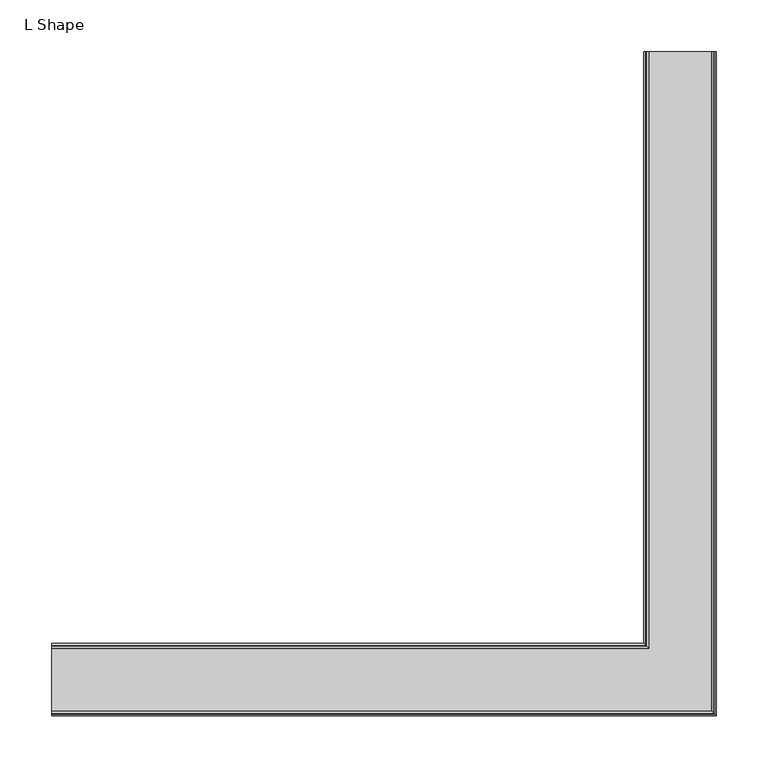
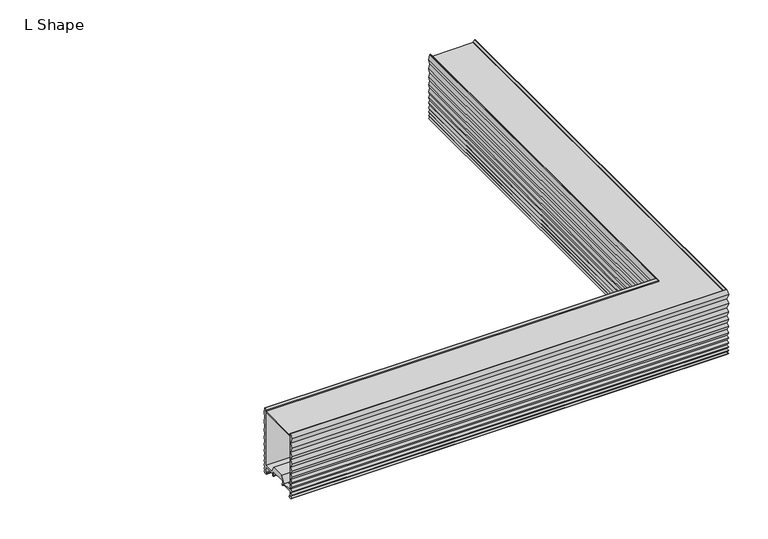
"""IFC4 building model written with IfcOpenShell, lengths in millimetres: light fixture geometry, Lighting-Pendant-Betacalco-Bellows-L_Shape : L Shape."""

from ifc_helpers import new_model, si_unit, frame, origin, place, context, project, spatial, polyline, circle_curve, ellipse_curve, outline, extrude, source, transform, mapped, element, save
from ifc_brep_helpers import plane_surface, cylinder_surface, advanced_brep


def l_shape_f6189a61(model_context):
    return source(origin(), model_context, "Body", "SolidModel", [
        advanced_brep(
        [(273.578, 609.6, 620.268), (273.578, 609.6, 611.759), (276.1074155, 609.6, 611.759), (274.1622, 609.6, 609.6), (271.5112057, 609.6, 609.6), (269.6378379, 609.6, 611.6283861), (271.419, 609.6, 613.664), (269.641, 609.6, 616.204), (271.419, 609.6, 618.744), (269.641, 609.6, 621.792), (271.419, 609.6, 624.84), (269.641, 609.6, 628.396), (271.419, 609.6, 631.952), (269.641, 609.6, 635.762), (271.419, 609.6, 639.572), (269.6696413, 609.6, 644.0703509), (271.3917998, 609.6, 648.6460566), (269.6644945, 609.6, 653.7288728), (271.3965785, 609.6, 658.8119386), (269.6606035, 609.6, 664.402389), (271.4002163, 609.6, 669.9929656), (269.6575947, 609.6, 676.091104), (271.4035969, 609.6, 682.1911894), (269.6533208, 609.6, 689.3067168), (271.4068918, 609.6, 696.4195673), (269.6525087, 609.6, 703.786321), (271.4185068, 609.6, 711.2), (272.2122568, 609.6, 711.2), (274.37175, 609.6, 708.8470342), (274.37175, 609.6, 707.3961196), (273.578, 609.6, 707.3961196), (273.578, 609.6, 622.427), (289.3193854, 609.6, 622.427), (294.1777745, 609.6, 632.1473325), (315.4222255, 609.6, 632.1473325), (320.2806146, 609.6, 622.427), (336.022, 609.6, 622.427), (336.022, 609.6, 707.3961196), (335.22825, 609.6, 707.3961196), (335.22825, 609.6, 708.8470342), (337.3877432, 609.6, 711.2), (338.1814932, 609.6, 711.2), (339.9474913, 609.6, 703.786321), (338.1931082, 609.6, 696.4195673), (339.9466792, 609.6, 689.3067168), (338.1964031, 609.6, 682.1911894), (339.9424053, 609.6, 676.091104), (338.1997837, 609.6, 669.9929656), (339.9393965, 609.6, 664.402389), (338.2034215, 609.6, 658.8119386), (339.9355055, 609.6, 653.7288728), (338.2082002, 609.6, 648.6460566), (339.9303587, 609.6, 644.0703509), (338.181, 609.6, 639.572), (339.959, 609.6, 635.762), (338.181, 609.6, 631.952), (339.959, 609.6, 628.396), (338.181, 609.6, 624.84), (339.959, 609.6, 621.792), (338.181, 609.6, 618.744), (339.959, 609.6, 616.204), (338.181, 609.6, 613.664), (339.9621621, 609.6, 611.6283861), (338.0887943, 609.6, 609.6), (335.4378, 609.6, 609.6), (333.4925845, 609.6, 611.759), (336.022, 609.6, 611.759), (336.022, 609.6, 620.268), (318.3129289, 609.6, 620.268), (317.5429679, 609.6, 618.214822), (315.8552644, 609.6, 618.8406239), (317.48601, 609.6, 623.1891701), (316.8641563, 609.6, 624.4333325), (292.7358437, 609.6, 624.4333325), (292.11399, 609.6, 623.1891701), (293.7447356, 609.6, 618.8406239), (292.0570321, 609.6, 618.214822), (291.2870711, 609.6, 620.268), (-304.8, 31.222, 620.268), (-304.8, 13.5129289, 620.268), (-304.8, 12.7429679, 618.214822), (-304.8, 11.0552644, 618.8406239), (-304.8, 12.68601, 623.1891701), (-304.8, 12.0641563, 624.4333325), (-304.8, -12.0641563, 624.4333325), (-304.8, -12.68601, 623.1891701), (-304.8, -11.0552644, 618.8406239), (-304.8, -12.7429679, 618.214822), (-304.8, -13.5129289, 620.268), (-304.8, -31.222, 620.268), (-304.8, -31.222, 611.759), (-304.8, -28.6925845, 611.759), (-304.8, -30.6378, 609.6), (-304.8, -33.2887943, 609.6), (-304.8, -35.1621621, 611.6283861), (-304.8, -33.381, 613.664), (-304.8, -35.159, 616.204), (-304.8, -33.381, 618.744), (-304.8, -35.159, 621.792), (-304.8, -33.381, 624.84), (-304.8, -35.159, 628.396), (-304.8, -33.381, 631.952), (-304.8, -35.159, 635.762), (-304.8, -33.381, 639.572), (-304.8, -35.1303587, 644.0703509), (-304.8, -33.4082002, 648.6460566), (-304.8, -35.1355055, 653.7288728), (-304.8, -33.4034215, 658.8119386), (-304.8, -35.1393965, 664.402389), (-304.8, -33.3997837, 669.9929656), (-304.8, -35.1424053, 676.091104), (-304.8, -33.3964031, 682.1911894), (-304.8, -35.1466792, 689.3067168), (-304.8, -33.3931082, 696.4195673), (-304.8, -35.1474913, 703.786321), (-304.8, -33.3814932, 711.2), (-304.8, -32.5877432, 711.2), (-304.8, -30.42825, 708.8470342), (-304.8, -30.42825, 707.3961196), (-304.8, -31.222, 707.3961196), (-304.8, -31.222, 622.427), (-304.8, -15.4806146, 622.427), (-304.8, -10.6222255, 632.1473325), (-304.8, 10.6222255, 632.1473325), (-304.8, 15.4806146, 622.427), (-304.8, 31.222, 622.427), (-304.8, 31.222, 707.3961196), (-304.8, 30.42825, 707.3961196), (-304.8, 30.42825, 708.8470342), (-304.8, 32.5877432, 711.2), (-304.8, 33.3814932, 711.2), (-304.8, 35.1474913, 703.786321), (-304.8, 33.3931082, 696.4195673), (-304.8, 35.1466792, 689.3067168), (-304.8, 33.3964031, 682.1911894), (-304.8, 35.1424053, 676.091104), (-304.8, 33.3997837, 669.9929656), (-304.8, 35.1393965, 664.402389), (-304.8, 33.4034215, 658.8119386), (-304.8, 35.1355055, 653.7288728), (-304.8, 33.4082002, 648.6460566), (-304.8, 35.1303587, 644.0703509), (-304.8, 33.381, 639.572), (-304.8, 35.159, 635.762), (-304.8, 33.381, 631.952), (-304.8, 35.159, 628.396), (-304.8, 33.381, 624.84), (-304.8, 35.159, 621.792), (-304.8, 33.381, 618.744), (-304.8, 35.159, 616.204), (-304.8, 33.381, 613.664), (-304.8, 35.1621621, 611.6283861), (-304.8, 33.2887943, 609.6), (-304.8, 30.6378, 609.6), (-304.8, 28.6925845, 611.759), (-304.8, 31.222, 611.759), (292.0570321, 12.7429679, 618.214822), (291.2870711, 13.5129289, 620.268), (293.7447356, 11.0552644, 618.8406239), (292.11399, 12.68601, 623.1891701), (292.7358437, 12.0641563, 624.4333325), (317.48601, -12.68601, 623.1891701), (316.8641563, -12.0641563, 624.4333325), (315.8552644, -11.0552644, 618.8406239), (317.5429679, -12.7429679, 618.214822), (318.3129289, -13.5129289, 620.268), (336.022, -31.222, 611.759), (336.022, -31.222, 620.268), (335.4378, -30.6378, 609.6), (333.4925845, -28.6925845, 611.759), (339.9621621, -35.1621621, 611.6283861), (338.0887943, -33.2887943, 609.6), (338.181, -33.381, 613.664), (339.959, -35.159, 616.204), (338.181, -33.381, 618.744), (339.959, -35.159, 621.792), (338.181, -33.381, 624.84), (339.959, -35.159, 628.396), (338.181, -33.381, 631.952), (339.959, -35.159, 635.762), (338.181, -33.381, 639.572), (339.9303587, -35.1303587, 644.0703509), (338.2082002, -33.4082002, 648.6460566), (339.9355055, -35.1355055, 653.7288728), (338.2034215, -33.4034215, 658.8119386), (339.9393965, -35.1393965, 664.402389), (338.1997837, -33.3997837, 669.9929656), (339.9424053, -35.1424053, 676.091104), (338.1964031, -33.3964031, 682.1911894), (339.9466792, -35.1466792, 689.3067168), (338.1931082, -33.3931082, 696.4195673), (339.9474913, -35.1474913, 703.786321), (338.1814932, -33.3814932, 711.2), (335.22825, -30.42825, 708.8470342), (337.3877432, -32.5877432, 711.2), (335.22825, -30.42825, 707.3961196), (336.022, -31.222, 622.427), (336.022, -31.222, 707.3961196), (315.4222255, -10.6222255, 632.1473325), (320.2806146, -15.4806146, 622.427), (289.3193854, 15.4806146, 622.427), (294.1777745, 10.6222255, 632.1473325), (273.578, 31.222, 707.3961196), (273.578, 31.222, 622.427), (274.37175, 30.42825, 708.8470342), (274.37175, 30.42825, 707.3961196), (272.2122568, 32.5877432, 711.2), (269.6525087, 35.1474913, 703.786321), (271.4185068, 33.3814932, 711.2), (271.4068918, 33.3931082, 696.4195673), (269.6533208, 35.1466792, 689.3067168), (271.4035969, 33.3964031, 682.1911894), (269.6575947, 35.1424053, 676.091104), (271.4002163, 33.3997837, 669.9929656), (269.6606035, 35.1393965, 664.402389), (271.3965785, 33.4034215, 658.8119386), (269.6644945, 35.1355055, 653.7288728), (271.3917998, 33.4082002, 648.6460566), (269.6696413, 35.1303587, 644.0703509), (271.419, 33.381, 639.572), (269.641, 35.159, 635.762), (271.419, 33.381, 631.952), (269.641, 35.159, 628.396), (271.419, 33.381, 624.84), (269.641, 35.159, 621.792), (271.419, 33.381, 618.744), (269.641, 35.159, 616.204), (271.419, 33.381, 613.664), (269.6378379, 35.1621621, 611.6283861), (271.5112057, 33.2887943, 609.6), (276.1074155, 28.6925845, 611.759), (274.1622, 30.6378, 609.6), (273.578, 31.222, 620.268), (273.578, 31.222, 611.759)],
        [
            (0, 1),
            (1, 2),
            (2, 3, circle_curve(frame((274.1622, 609.6, 611.5558), z_axis=(0.0, 1.0, 0.0), x_axis=(0.0, 0.0, -1.0)), 1.9558)),
            (3, 4),
            (4, 5),
            (5, 6),
            (6, 7),
            (7, 8),
            (8, 9),
            (9, 10),
            (10, 11),
            (11, 12),
            (12, 13),
            (13, 14),
            (14, 15),
            (15, 16),
            (16, 17),
            (17, 18),
            (18, 19),
            (19, 20),
            (20, 21),
            (21, 22),
            (22, 23),
            (23, 24),
            (24, 25),
            (25, 26),
            (26, 27),
            (27, 28),
            (28, 29),
            (29, 30),
            (30, 31),
            (31, 32),
            (32, 33),
            (33, 34),
            (34, 35),
            (35, 36),
            (36, 37),
            (37, 38),
            (38, 39),
            (39, 40),
            (40, 41),
            (41, 42),
            (42, 43),
            (43, 44),
            (44, 45),
            (45, 46),
            (46, 47),
            (47, 48),
            (48, 49),
            (49, 50),
            (50, 51),
            (51, 52),
            (52, 53),
            (53, 54),
            (54, 55),
            (55, 56),
            (56, 57),
            (57, 58),
            (58, 59),
            (59, 60),
            (60, 61),
            (61, 62),
            (62, 63),
            (63, 64),
            (64, 65, circle_curve(frame((335.4378, 609.6, 611.5558), z_axis=(0.0, 1.0, 0.0), x_axis=(0.0, 0.0, -1.0)), 1.9558)),
            (65, 66),
            (66, 67),
            (67, 68),
            (68, 69),
            (69, 70, circle_curve(frame((316.7002723, 609.6, 618.5308408), z_axis=(0.0, 1.0, 0.0), x_axis=(-0.34325550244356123, 0.0, -0.9392420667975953)), 0.9000021)),
            (70, 71),
            (71, 72),
            (72, 73),
            (73, 74),
            (74, 75),
            (75, 76, circle_curve(frame((292.8997277, 609.6, 618.5308408), z_axis=(0.0, 1.0, 0.0), x_axis=(0.34325550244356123, 0.0, -0.9392420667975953)), 0.9000021)),
            (76, 77),
            (77, 0),
            (78, 79),
            (79, 80),
            (80, 81, circle_curve(frame((-304.8, 11.9002723, 618.5308408), z_axis=(-1.0, 0.0, 0.0), x_axis=(0.0, -0.34325550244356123, -0.9392420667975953)), 0.9000021)),
            (81, 82),
            (82, 83),
            (83, 84),
            (84, 85),
            (85, 86),
            (86, 87, circle_curve(frame((-304.8, -11.9002723, 618.5308408), z_axis=(-1.0, 0.0, 0.0), x_axis=(0.0, 0.34325550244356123, -0.9392420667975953)), 0.9000021)),
            (87, 88),
            (88, 89),
            (89, 90),
            (90, 91),
            (91, 92, circle_curve(frame((-304.8, -30.6378, 611.5558), z_axis=(-1.0, 0.0, 0.0), x_axis=(0.0, 0.0, -1.0)), 1.9558)),
            (92, 93),
            (93, 94),
            (94, 95),
            (95, 96),
            (96, 97),
            (97, 98),
            (98, 99),
            (99, 100),
            (100, 101),
            (101, 102),
            (102, 103),
            (103, 104),
            (104, 105),
            (105, 106),
            (106, 107),
            (107, 108),
            (108, 109),
            (109, 110),
            (110, 111),
            (111, 112),
            (112, 113),
            (113, 114),
            (114, 115),
            (115, 116),
            (116, 117),
            (117, 118),
            (118, 119),
            (119, 120),
            (120, 121),
            (121, 122),
            (122, 123),
            (123, 124),
            (124, 125),
            (125, 126),
            (126, 127),
            (127, 128),
            (128, 129),
            (129, 130),
            (130, 131),
            (131, 132),
            (132, 133),
            (133, 134),
            (134, 135),
            (135, 136),
            (136, 137),
            (137, 138),
            (138, 139),
            (139, 140),
            (140, 141),
            (141, 142),
            (142, 143),
            (143, 144),
            (144, 145),
            (145, 146),
            (146, 147),
            (147, 148),
            (148, 149),
            (149, 150),
            (150, 151),
            (151, 152),
            (152, 153),
            (153, 154, circle_curve(frame((-304.8, 30.6378, 611.5558), z_axis=(-1.0, 0.0, 0.0), x_axis=(0.0, 0.0, -1.0)), 1.9558)),
            (154, 155),
            (155, 78),
            (156, 80),
            (79, 157),
            (157, 156),
            (158, 81),
            (156, 158, ellipse_curve(frame((292.8997277, 11.9002723, 618.5308408), z_axis=(-0.7071067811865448, -0.7071067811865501, 0.0), x_axis=(0.7071067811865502, -0.7071067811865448, 0.0)), 1.2727952, 0.9000021)),
            (159, 82),
            (158, 159),
            (160, 83),
            (159, 160),
            (161, 85),
            (84, 162),
            (162, 161),
            (163, 86),
            (161, 163),
            (164, 87),
            (163, 164, ellipse_curve(frame((316.7002723, -11.9002723, 618.5308408), z_axis=(-0.7071067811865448, -0.7071067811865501, 0.0), x_axis=(0.7071067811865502, -0.7071067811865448, 0.0)), 1.2727952, 0.9000021)),
            (165, 88),
            (164, 165),
            (166, 90),
            (89, 167),
            (167, 166),
            (168, 92),
            (91, 169),
            (169, 168, ellipse_curve(frame((335.4378, -30.6378, 611.5558), z_axis=(-0.7071067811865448, -0.7071067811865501, 0.0), x_axis=(0.7071067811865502, -0.7071067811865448, 0.0)), 2.7659189, 1.9558)),
            (170, 94),
            (93, 171),
            (171, 170),
            (172, 95),
            (170, 172),
            (173, 96),
            (172, 173),
            (174, 97),
            (173, 174),
            (175, 98),
            (174, 175),
            (176, 99),
            (175, 176),
            (177, 100),
            (176, 177),
            (178, 101),
            (177, 178),
            (179, 102),
            (178, 179),
            (180, 103),
            (179, 180),
            (181, 104),
            (180, 181),
            (182, 105),
            (181, 182),
            (183, 106),
            (182, 183),
            (184, 107),
            (183, 184),
            (185, 108),
            (184, 185),
            (186, 109),
            (185, 186),
            (187, 110),
            (186, 187),
            (188, 111),
            (187, 188),
            (189, 112),
            (188, 189),
            (190, 113),
            (189, 190),
            (191, 114),
            (190, 191),
            (192, 115),
            (191, 192),
            (193, 117),
            (116, 194),
            (194, 193),
            (195, 118),
            (193, 195),
            (196, 120),
            (119, 197),
            (197, 196),
            (198, 122),
            (121, 199),
            (199, 198),
            (200, 124),
            (123, 201),
            (201, 200),
            (202, 126),
            (125, 203),
            (203, 202),
            (204, 128),
            (127, 205),
            (205, 204),
            (206, 129),
            (204, 206),
            (207, 131),
            (130, 208),
            (208, 207),
            (209, 132),
            (207, 209),
            (210, 133),
            (209, 210),
            (211, 134),
            (210, 211),
            (212, 135),
            (211, 212),
            (213, 136),
            (212, 213),
            (214, 137),
            (213, 214),
            (215, 138),
            (214, 215),
            (216, 139),
            (215, 216),
            (217, 140),
            (216, 217),
            (218, 141),
            (217, 218),
            (219, 142),
            (218, 219),
            (220, 143),
            (219, 220),
            (221, 144),
            (220, 221),
            (222, 145),
            (221, 222),
            (223, 146),
            (222, 223),
            (224, 147),
            (223, 224),
            (225, 148),
            (224, 225),
            (226, 149),
            (225, 226),
            (227, 150),
            (226, 227),
            (228, 151),
            (227, 228),
            (229, 152),
            (228, 229),
            (230, 154),
            (153, 231),
            (231, 230, ellipse_curve(frame((274.1622, 30.6378, 611.5558), z_axis=(-0.7071067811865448, -0.7071067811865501, 0.0), x_axis=(0.7071067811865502, -0.7071067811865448, 0.0)), 2.7659189, 1.9558)),
            (232, 78),
            (155, 233),
            (233, 232),
            (77, 157),
            (232, 0),
            (76, 156),
            (75, 158),
            (74, 159),
            (73, 160),
            (72, 162),
            (71, 161),
            (70, 163),
            (69, 164),
            (68, 165),
            (67, 167),
            (66, 166),
            (65, 169),
            (64, 168),
            (63, 171),
            (62, 170),
            (61, 172),
            (60, 173),
            (59, 174),
            (58, 175),
            (57, 176),
            (56, 177),
            (55, 178),
            (54, 179),
            (53, 180),
            (52, 181),
            (51, 182),
            (50, 183),
            (49, 184),
            (48, 185),
            (47, 186),
            (46, 187),
            (45, 188),
            (44, 189),
            (43, 190),
            (42, 191),
            (41, 192),
            (40, 194),
            (39, 193),
            (38, 195),
            (37, 197),
            (36, 196),
            (35, 199),
            (34, 198),
            (33, 201),
            (32, 200),
            (31, 203),
            (30, 202),
            (29, 205),
            (28, 204),
            (27, 206),
            (26, 208),
            (25, 207),
            (24, 209),
            (23, 210),
            (22, 211),
            (21, 212),
            (20, 213),
            (19, 214),
            (18, 215),
            (17, 216),
            (16, 217),
            (15, 218),
            (14, 219),
            (13, 220),
            (12, 221),
            (11, 222),
            (10, 223),
            (9, 224),
            (8, 225),
            (7, 226),
            (6, 227),
            (5, 228),
            (4, 229),
            (3, 231),
            (2, 230),
            (1, 233),
        ],
        [
            plane_surface(frame((304.8, 609.6, 0.0), z_axis=(0.0, 1.0, 0.0), x_axis=(0.0, 0.0, 1.0))),
            plane_surface(frame((-304.8, 0.0, 0.0), z_axis=(-1.0, 0.0, 0.0), x_axis=(0.0, 0.0, 1.0))),
            plane_surface(frame((291.2870711, 13.5129289, 620.268), z_axis=(0.0, 0.9363262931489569, -0.3511311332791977), x_axis=(-1.0, 0.0, 0.0))),
            cylinder_surface(frame((304.8, 11.9002723, 618.5308408), z_axis=(1.0, 0.0, 0.0), x_axis=(0.0, -0.34325550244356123, -0.9392420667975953)), 0.9000021),
            plane_surface(frame((293.7447356, 11.0552644, 618.8406239), z_axis=(0.0, -0.9363262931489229, 0.35113113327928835), x_axis=(-1.0, 0.0, 0.0))),
            plane_surface(frame((292.11399, 12.68601, 623.1891701), z_axis=(0.0, -0.89449260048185, -0.44708275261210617), x_axis=(-1.0, 0.0, 0.0))),
            plane_surface(frame((316.8641563, -12.0641563, 624.4333325), z_axis=(0.0, 0.89449260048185, -0.44708275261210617), x_axis=(-1.0, 0.0, 0.0))),
            plane_surface(frame((317.48601, -12.68601, 623.1891701), z_axis=(0.0, 0.9363262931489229, 0.35113113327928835), x_axis=(-1.0, 0.0, 0.0))),
            cylinder_surface(frame((304.8, -11.9002723, 618.5308408), z_axis=(1.0, 0.0, 0.0), x_axis=(0.0, 0.34325550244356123, -0.9392420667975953)), 0.9000021),
            plane_surface(frame((317.5429679, -12.7429679, 618.214822), z_axis=(0.0, -0.9363262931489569, -0.3511311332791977), x_axis=(-1.0, 0.0, 0.0))),
            plane_surface(frame((336.022, -31.222, 620.268), z_axis=(0.0, 1.0, 0.0), x_axis=(-1.0, 0.0, 0.0))),
            cylinder_surface(frame((304.8, -30.6378, 611.5558), z_axis=(1.0, 0.0, 0.0), x_axis=(0.0, 0.0, -1.0)), 1.9558),
            plane_surface(frame((338.0887943, -33.2887943, 609.6), z_axis=(0.0, -0.7346208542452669, -0.6784778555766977), x_axis=(-1.0, 0.0, 0.0))),
            plane_surface(frame((339.9621621, -35.1621621, 611.6283861), z_axis=(0.0, -0.75257669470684, 0.6585046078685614), x_axis=(-1.0, 0.0, 0.0))),
            plane_surface(frame((338.181, -33.381, 613.664), z_axis=(0.0, -0.8192319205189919, -0.5734623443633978), x_axis=(-1.0, 0.0, 0.0))),
            plane_surface(frame((339.959, -35.159, 616.204), z_axis=(0.0, -0.8192319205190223, 0.5734623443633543), x_axis=(-1.0, 0.0, 0.0))),
            plane_surface(frame((338.181, -33.381, 618.744), z_axis=(0.0, -0.8637789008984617, -0.503871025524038), x_axis=(-1.0, 0.0, 0.0))),
            plane_surface(frame((339.959, -35.159, 621.792), z_axis=(0.0, -0.8637789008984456, 0.5038710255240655), x_axis=(-1.0, 0.0, 0.0))),
            plane_surface(frame((338.181, -33.381, 624.84), z_axis=(0.0, -0.8944271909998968, -0.4472135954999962), x_axis=(-1.0, 0.0, 0.0))),
            plane_surface(frame((339.959, -35.159, 628.396), z_axis=(0.0, -0.8944271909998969, 0.44721359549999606), x_axis=(-1.0, 0.0, 0.0))),
            plane_surface(frame((338.181, -33.381, 631.952), z_axis=(0.0, -0.9061831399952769, -0.4228854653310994), x_axis=(-1.0, 0.0, 0.0))),
            plane_surface(frame((339.959, -35.159, 635.762), z_axis=(0.0, -0.9061831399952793, 0.4228854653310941), x_axis=(-1.0, 0.0, 0.0))),
            plane_surface(frame((338.181, -33.381, 639.572), z_axis=(0.0, -0.9320046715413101, -0.362446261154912), x_axis=(-1.0, 0.0, 0.0))),
            plane_surface(frame((339.9303587, -35.1303587, 644.0703509), z_axis=(0.0, -0.9359069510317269, 0.35224732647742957), x_axis=(-1.0, 0.0, 0.0))),
            plane_surface(frame((338.2082002, -33.4082002, 648.6460566), z_axis=(0.0, -0.9468211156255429, -0.3217604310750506), x_axis=(-1.0, 0.0, 0.0))),
            plane_surface(frame((339.9355055, -35.1355055, 653.7288728), z_axis=(0.0, -0.9465545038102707, 0.3225439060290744), x_axis=(-1.0, 0.0, 0.0))),
            plane_surface(frame((338.2034215, -33.4034215, 658.8119386), z_axis=(0.0, -0.9550153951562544, -0.2965562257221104), x_axis=(-1.0, 0.0, 0.0))),
            plane_surface(frame((339.9393965, -35.1393965, 664.402389), z_axis=(0.0, -0.9548411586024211, 0.29711674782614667), x_axis=(-1.0, 0.0, 0.0))),
            plane_surface(frame((338.1997837, -33.3997837, 669.9929656), z_axis=(0.0, -0.9615116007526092, -0.2747643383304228), x_axis=(-1.0, 0.0, 0.0))),
            plane_surface(frame((339.9424053, -35.1424053, 676.091104), z_axis=(0.0, -0.9613939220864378, 0.27517581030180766), x_axis=(-1.0, 0.0, 0.0))),
            plane_surface(frame((338.1964031, -33.3964031, 682.1911894), z_axis=(0.0, -0.971054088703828, -0.23885970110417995), x_axis=(-1.0, 0.0, 0.0))),
            plane_surface(frame((339.9466792, -35.1466792, 689.3067168), z_axis=(0.0, -0.9709287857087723, 0.23936852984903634), x_axis=(-1.0, 0.0, 0.0))),
            plane_surface(frame((338.1931082, -33.3931082, 696.4195673), z_axis=(0.0, -0.9727944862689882, -0.23166978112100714), x_axis=(-1.0, 0.0, 0.0))),
            plane_surface(frame((339.9474913, -35.1474913, 703.786321), z_axis=(0.0, -0.9727814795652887, 0.23172439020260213), x_axis=(-1.0, 0.0, 0.0))),
            plane_surface(frame((337.3877432, -32.5877432, 711.2), z_axis=(0.0, 0.7367472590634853, 0.6761682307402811), x_axis=(-1.0, 0.0, 0.0))),
            plane_surface(frame((335.22825, -30.42825, 708.8470342), z_axis=(0.0, 1.0, 0.0), x_axis=(-1.0, 0.0, 0.0))),
            plane_surface(frame((336.022, -31.222, 707.3961196), z_axis=(0.0, 1.0, 0.0), x_axis=(-1.0, 0.0, 0.0))),
            plane_surface(frame((320.2806146, -15.4806146, 622.427), z_axis=(0.0, -0.8944926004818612, 0.4470827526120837), x_axis=(-1.0, 0.0, 0.0))),
            plane_surface(frame((294.1777745, 10.6222255, 632.1473325), z_axis=(0.0, 0.8944926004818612, 0.4470827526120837), x_axis=(-1.0, 0.0, 0.0))),
            plane_surface(frame((273.578, 31.222, 622.427), z_axis=(0.0, -1.0, 0.0), x_axis=(-1.0, 0.0, 0.0))),
            plane_surface(frame((274.37175, 30.42825, 707.3961196), z_axis=(0.0, -1.0, 0.0), x_axis=(-1.0, 0.0, 0.0))),
            plane_surface(frame((274.37175, 30.42825, 708.8470342), z_axis=(0.0, -0.7367472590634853, 0.6761682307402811), x_axis=(-1.0, 0.0, 0.0))),
            plane_surface(frame((271.4185068, 33.3814932, 711.2), z_axis=(0.0, 0.9727814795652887, 0.23172439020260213), x_axis=(-1.0, 0.0, 0.0))),
            plane_surface(frame((269.6525087, 35.1474913, 703.786321), z_axis=(0.0, 0.9727944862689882, -0.23166978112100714), x_axis=(-1.0, 0.0, 0.0))),
            plane_surface(frame((271.4068918, 33.3931082, 696.4195673), z_axis=(0.0, 0.9709287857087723, 0.23936852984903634), x_axis=(-1.0, 0.0, 0.0))),
            plane_surface(frame((269.6533208, 35.1466792, 689.3067168), z_axis=(0.0, 0.971054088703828, -0.23885970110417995), x_axis=(-1.0, 0.0, 0.0))),
            plane_surface(frame((271.4035969, 33.3964031, 682.1911894), z_axis=(0.0, 0.9613939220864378, 0.27517581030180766), x_axis=(-1.0, 0.0, 0.0))),
            plane_surface(frame((269.6575947, 35.1424053, 676.091104), z_axis=(0.0, 0.9615116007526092, -0.2747643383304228), x_axis=(-1.0, 0.0, 0.0))),
            plane_surface(frame((271.4002163, 33.3997837, 669.9929656), z_axis=(0.0, 0.9548411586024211, 0.29711674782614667), x_axis=(-1.0, 0.0, 0.0))),
            plane_surface(frame((269.6606035, 35.1393965, 664.402389), z_axis=(0.0, 0.9550153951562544, -0.2965562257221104), x_axis=(-1.0, 0.0, 0.0))),
            plane_surface(frame((271.3965785, 33.4034215, 658.8119386), z_axis=(0.0, 0.9465545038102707, 0.3225439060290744), x_axis=(-1.0, 0.0, 0.0))),
            plane_surface(frame((269.6644945, 35.1355055, 653.7288728), z_axis=(0.0, 0.9468211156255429, -0.3217604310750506), x_axis=(-1.0, 0.0, 0.0))),
            plane_surface(frame((271.3917998, 33.4082002, 648.6460566), z_axis=(0.0, 0.9359069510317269, 0.35224732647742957), x_axis=(-1.0, 0.0, 0.0))),
            plane_surface(frame((269.6696413, 35.1303587, 644.0703509), z_axis=(0.0, 0.9320046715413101, -0.362446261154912), x_axis=(-1.0, 0.0, 0.0))),
            plane_surface(frame((271.419, 33.381, 639.572), z_axis=(0.0, 0.9061831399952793, 0.4228854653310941), x_axis=(-1.0, 0.0, 0.0))),
            plane_surface(frame((269.641, 35.159, 635.762), z_axis=(0.0, 0.9061831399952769, -0.4228854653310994), x_axis=(-1.0, 0.0, 0.0))),
            plane_surface(frame((271.419, 33.381, 631.952), z_axis=(0.0, 0.8944271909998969, 0.44721359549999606), x_axis=(-1.0, 0.0, 0.0))),
            plane_surface(frame((269.641, 35.159, 628.396), z_axis=(0.0, 0.8944271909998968, -0.4472135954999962), x_axis=(-1.0, 0.0, 0.0))),
            plane_surface(frame((271.419, 33.381, 624.84), z_axis=(0.0, 0.8637789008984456, 0.5038710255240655), x_axis=(-1.0, 0.0, 0.0))),
            plane_surface(frame((269.641, 35.159, 621.792), z_axis=(0.0, 0.8637789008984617, -0.503871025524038), x_axis=(-1.0, 0.0, 0.0))),
            plane_surface(frame((271.419, 33.381, 618.744), z_axis=(0.0, 0.8192319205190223, 0.5734623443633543), x_axis=(-1.0, 0.0, 0.0))),
            plane_surface(frame((269.641, 35.159, 616.204), z_axis=(0.0, 0.8192319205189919, -0.5734623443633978), x_axis=(-1.0, 0.0, 0.0))),
            plane_surface(frame((271.419, 33.381, 613.664), z_axis=(0.0, 0.75257669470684, 0.6585046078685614), x_axis=(-1.0, 0.0, 0.0))),
            plane_surface(frame((269.6378379, 35.1621621, 611.6283861), z_axis=(0.0, 0.7346208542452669, -0.6784778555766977), x_axis=(-1.0, 0.0, 0.0))),
            cylinder_surface(frame((304.8, 30.6378, 611.5558), z_axis=(1.0, 0.0, 0.0), x_axis=(0.0, 0.0, -1.0)), 1.9558),
            plane_surface(frame((273.578, 31.222, 611.759), z_axis=(0.0, -1.0, 0.0), x_axis=(-1.0, 0.0, 0.0))),
            plane_surface(frame((273.578, 609.6, 620.268), z_axis=(0.0, 0.0, -1.0), x_axis=(0.0, -1.0, 0.0))),
            plane_surface(frame((291.2870711, 609.6, 620.268), z_axis=(-0.9363262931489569, 0.0, -0.3511311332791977), x_axis=(0.0, -1.0, 0.0))),
            cylinder_surface(frame((292.8997277, 609.6, 618.5308408), z_axis=(0.0, 1.0, 0.0), x_axis=(0.34325550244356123, 0.0, -0.9392420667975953)), 0.9000021),
            plane_surface(frame((293.7447356, 609.6, 618.8406239), z_axis=(0.9363262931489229, 0.0, 0.35113113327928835), x_axis=(0.0, -1.0, 0.0))),
            plane_surface(frame((292.11399, 609.6, 623.1891701), z_axis=(0.89449260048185, 0.0, -0.44708275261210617), x_axis=(0.0, -1.0, 0.0))),
            plane_surface(frame((292.7358437, 609.6, 624.4333325), z_axis=(0.0, 0.0, -1.0), x_axis=(0.0, -1.0, 0.0))),
            plane_surface(frame((316.8641563, 609.6, 624.4333325), z_axis=(-0.89449260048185, 0.0, -0.44708275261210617), x_axis=(0.0, -1.0, 0.0))),
            plane_surface(frame((317.48601, 609.6, 623.1891701), z_axis=(-0.9363262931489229, 0.0, 0.35113113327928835), x_axis=(0.0, -1.0, 0.0))),
            cylinder_surface(frame((316.7002723, 609.6, 618.5308408), z_axis=(0.0, 1.0, 0.0), x_axis=(-0.34325550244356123, 0.0, -0.9392420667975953)), 0.9000021),
            plane_surface(frame((317.5429679, 609.6, 618.214822), z_axis=(0.9363262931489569, 0.0, -0.3511311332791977), x_axis=(0.0, -1.0, 0.0))),
            plane_surface(frame((318.3129289, 609.6, 620.268), z_axis=(0.0, 0.0, -1.0), x_axis=(0.0, -1.0, 0.0))),
            plane_surface(frame((336.022, 609.6, 620.268), z_axis=(-1.0, 0.0, 0.0), x_axis=(0.0, -1.0, 0.0))),
            plane_surface(frame((336.022, 609.6, 611.759), z_axis=(0.0, 0.0, 1.0), x_axis=(0.0, -1.0, 0.0))),
            cylinder_surface(frame((335.4378, 609.6, 611.5558), z_axis=(0.0, 1.0, 0.0), x_axis=(0.0, 0.0, -1.0)), 1.9558),
            plane_surface(frame((335.4378, 609.6, 609.6), z_axis=(0.0, 0.0, -1.0), x_axis=(0.0, -1.0, 0.0))),
            plane_surface(frame((338.0887943, 609.6, 609.6), z_axis=(0.7346208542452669, 0.0, -0.6784778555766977), x_axis=(0.0, -1.0, 0.0))),
            plane_surface(frame((339.9621621, 609.6, 611.6283861), z_axis=(0.75257669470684, 0.0, 0.6585046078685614), x_axis=(0.0, -1.0, 0.0))),
            plane_surface(frame((338.181, 609.6, 613.664), z_axis=(0.8192319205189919, 0.0, -0.5734623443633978), x_axis=(0.0, -1.0, 0.0))),
            plane_surface(frame((339.959, 609.6, 616.204), z_axis=(0.8192319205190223, 0.0, 0.5734623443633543), x_axis=(0.0, -1.0, 0.0))),
            plane_surface(frame((338.181, 609.6, 618.744), z_axis=(0.8637789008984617, 0.0, -0.503871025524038), x_axis=(0.0, -1.0, 0.0))),
            plane_surface(frame((339.959, 609.6, 621.792), z_axis=(0.8637789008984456, 0.0, 0.5038710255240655), x_axis=(0.0, -1.0, 0.0))),
            plane_surface(frame((338.181, 609.6, 624.84), z_axis=(0.8944271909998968, 0.0, -0.4472135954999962), x_axis=(0.0, -1.0, 0.0))),
            plane_surface(frame((339.959, 609.6, 628.396), z_axis=(0.8944271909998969, 0.0, 0.44721359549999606), x_axis=(0.0, -1.0, 0.0))),
            plane_surface(frame((338.181, 609.6, 631.952), z_axis=(0.9061831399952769, 0.0, -0.4228854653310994), x_axis=(0.0, -1.0, 0.0))),
            plane_surface(frame((339.959, 609.6, 635.762), z_axis=(0.9061831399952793, 0.0, 0.4228854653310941), x_axis=(0.0, -1.0, 0.0))),
            plane_surface(frame((338.181, 609.6, 639.572), z_axis=(0.9320046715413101, 0.0, -0.362446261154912), x_axis=(0.0, -1.0, 0.0))),
            plane_surface(frame((339.9303587, 609.6, 644.0703509), z_axis=(0.9359069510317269, 0.0, 0.35224732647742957), x_axis=(0.0, -1.0, 0.0))),
            plane_surface(frame((338.2082002, 609.6, 648.6460566), z_axis=(0.9468211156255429, 0.0, -0.3217604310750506), x_axis=(0.0, -1.0, 0.0))),
            plane_surface(frame((339.9355055, 609.6, 653.7288728), z_axis=(0.9465545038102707, 0.0, 0.3225439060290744), x_axis=(0.0, -1.0, 0.0))),
            plane_surface(frame((338.2034215, 609.6, 658.8119386), z_axis=(0.9550153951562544, 0.0, -0.2965562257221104), x_axis=(0.0, -1.0, 0.0))),
            plane_surface(frame((339.9393965, 609.6, 664.402389), z_axis=(0.9548411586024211, 0.0, 0.29711674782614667), x_axis=(0.0, -1.0, 0.0))),
            plane_surface(frame((338.1997837, 609.6, 669.9929656), z_axis=(0.9615116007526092, 0.0, -0.2747643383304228), x_axis=(0.0, -1.0, 0.0))),
            plane_surface(frame((339.9424053, 609.6, 676.091104), z_axis=(0.9613939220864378, 0.0, 0.27517581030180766), x_axis=(0.0, -1.0, 0.0))),
            plane_surface(frame((338.1964031, 609.6, 682.1911894), z_axis=(0.971054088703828, 0.0, -0.23885970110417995), x_axis=(0.0, -1.0, 0.0))),
            plane_surface(frame((339.9466792, 609.6, 689.3067168), z_axis=(0.9709287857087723, 0.0, 0.23936852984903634), x_axis=(0.0, -1.0, 0.0))),
            plane_surface(frame((338.1931082, 609.6, 696.4195673), z_axis=(0.9727944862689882, 0.0, -0.23166978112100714), x_axis=(0.0, -1.0, 0.0))),
            plane_surface(frame((339.9474913, 609.6, 703.786321), z_axis=(0.9727814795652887, 0.0, 0.23172439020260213), x_axis=(0.0, -1.0, 0.0))),
            plane_surface(frame((338.1814932, 609.6, 711.2), z_axis=(0.0, 0.0, 1.0), x_axis=(0.0, -1.0, 0.0))),
            plane_surface(frame((337.3877432, 609.6, 711.2), z_axis=(-0.7367472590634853, 0.0, 0.6761682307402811), x_axis=(0.0, -1.0, 0.0))),
            plane_surface(frame((335.22825, 609.6, 708.8470342), z_axis=(-1.0, 0.0, 0.0), x_axis=(0.0, -1.0, 0.0))),
            plane_surface(frame((335.22825, 609.6, 707.3961196), z_axis=(0.0, 0.0, -1.0), x_axis=(0.0, -1.0, 0.0))),
            plane_surface(frame((336.022, 609.6, 707.3961196), z_axis=(-1.0, 0.0, 0.0), x_axis=(0.0, -1.0, 0.0))),
            plane_surface(frame((336.022, 609.6, 622.427), z_axis=(0.0, 0.0, 1.0), x_axis=(0.0, -1.0, 0.0))),
            plane_surface(frame((320.2806146, 609.6, 622.427), z_axis=(0.8944926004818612, 0.0, 0.4470827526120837), x_axis=(0.0, -1.0, 0.0))),
            plane_surface(frame((315.4222255, 609.6, 632.1473325), z_axis=(0.0, 0.0, 1.0), x_axis=(0.0, -1.0, 0.0))),
            plane_surface(frame((294.1777745, 609.6, 632.1473325), z_axis=(-0.8944926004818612, 0.0, 0.4470827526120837), x_axis=(0.0, -1.0, 0.0))),
            plane_surface(frame((289.3193854, 609.6, 622.427), z_axis=(0.0, 0.0, 1.0), x_axis=(0.0, -1.0, 0.0))),
            plane_surface(frame((273.578, 609.6, 622.427), z_axis=(1.0, 0.0, 0.0), x_axis=(0.0, -1.0, 0.0))),
            plane_surface(frame((273.578, 609.6, 707.3961196), z_axis=(0.0, 0.0, -1.0), x_axis=(0.0, -1.0, 0.0))),
            plane_surface(frame((274.37175, 609.6, 707.3961196), z_axis=(1.0, 0.0, 0.0), x_axis=(0.0, -1.0, 0.0))),
            plane_surface(frame((274.37175, 609.6, 708.8470342), z_axis=(0.7367472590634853, 0.0, 0.6761682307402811), x_axis=(0.0, -1.0, 0.0))),
            plane_surface(frame((272.2122568, 609.6, 711.2), z_axis=(0.0, 0.0, 1.0), x_axis=(0.0, -1.0, 0.0))),
            plane_surface(frame((271.4185068, 609.6, 711.2), z_axis=(-0.9727814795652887, 0.0, 0.23172439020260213), x_axis=(0.0, -1.0, 0.0))),
            plane_surface(frame((269.6525087, 609.6, 703.786321), z_axis=(-0.9727944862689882, 0.0, -0.23166978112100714), x_axis=(0.0, -1.0, 0.0))),
            plane_surface(frame((271.4068918, 609.6, 696.4195673), z_axis=(-0.9709287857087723, 0.0, 0.23936852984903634), x_axis=(0.0, -1.0, 0.0))),
            plane_surface(frame((269.6533208, 609.6, 689.3067168), z_axis=(-0.971054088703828, 0.0, -0.23885970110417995), x_axis=(0.0, -1.0, 0.0))),
            plane_surface(frame((271.4035969, 609.6, 682.1911894), z_axis=(-0.9613939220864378, 0.0, 0.27517581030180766), x_axis=(0.0, -1.0, 0.0))),
            plane_surface(frame((269.6575947, 609.6, 676.091104), z_axis=(-0.9615116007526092, 0.0, -0.2747643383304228), x_axis=(0.0, -1.0, 0.0))),
            plane_surface(frame((271.4002163, 609.6, 669.9929656), z_axis=(-0.9548411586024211, 0.0, 0.29711674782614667), x_axis=(0.0, -1.0, 0.0))),
            plane_surface(frame((269.6606035, 609.6, 664.402389), z_axis=(-0.9550153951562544, 0.0, -0.2965562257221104), x_axis=(0.0, -1.0, 0.0))),
            plane_surface(frame((271.3965785, 609.6, 658.8119386), z_axis=(-0.9465545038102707, 0.0, 0.3225439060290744), x_axis=(0.0, -1.0, 0.0))),
            plane_surface(frame((269.6644945, 609.6, 653.7288728), z_axis=(-0.9468211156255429, 0.0, -0.3217604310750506), x_axis=(0.0, -1.0, 0.0))),
            plane_surface(frame((271.3917998, 609.6, 648.6460566), z_axis=(-0.9359069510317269, 0.0, 0.35224732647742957), x_axis=(0.0, -1.0, 0.0))),
            plane_surface(frame((269.6696413, 609.6, 644.0703509), z_axis=(-0.9320046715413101, 0.0, -0.362446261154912), x_axis=(0.0, -1.0, 0.0))),
            plane_surface(frame((271.419, 609.6, 639.572), z_axis=(-0.9061831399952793, 0.0, 0.4228854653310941), x_axis=(0.0, -1.0, 0.0))),
            plane_surface(frame((269.641, 609.6, 635.762), z_axis=(-0.9061831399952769, 0.0, -0.4228854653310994), x_axis=(0.0, -1.0, 0.0))),
            plane_surface(frame((271.419, 609.6, 631.952), z_axis=(-0.8944271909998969, 0.0, 0.44721359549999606), x_axis=(0.0, -1.0, 0.0))),
            plane_surface(frame((269.641, 609.6, 628.396), z_axis=(-0.8944271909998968, 0.0, -0.4472135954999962), x_axis=(0.0, -1.0, 0.0))),
            plane_surface(frame((271.419, 609.6, 624.84), z_axis=(-0.8637789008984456, 0.0, 0.5038710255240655), x_axis=(0.0, -1.0, 0.0))),
            plane_surface(frame((269.641, 609.6, 621.792), z_axis=(-0.8637789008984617, 0.0, -0.503871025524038), x_axis=(0.0, -1.0, 0.0))),
            plane_surface(frame((271.419, 609.6, 618.744), z_axis=(-0.8192319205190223, 0.0, 0.5734623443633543), x_axis=(0.0, -1.0, 0.0))),
            plane_surface(frame((269.641, 609.6, 616.204), z_axis=(-0.8192319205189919, 0.0, -0.5734623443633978), x_axis=(0.0, -1.0, 0.0))),
            plane_surface(frame((271.419, 609.6, 613.664), z_axis=(-0.75257669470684, 0.0, 0.6585046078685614), x_axis=(0.0, -1.0, 0.0))),
            plane_surface(frame((269.6378379, 609.6, 611.6283861), z_axis=(-0.7346208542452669, 0.0, -0.6784778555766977), x_axis=(0.0, -1.0, 0.0))),
            plane_surface(frame((271.5112057, 609.6, 609.6), z_axis=(0.0, 0.0, -1.0), x_axis=(0.0, -1.0, 0.0))),
            cylinder_surface(frame((274.1622, 609.6, 611.5558), z_axis=(0.0, 1.0, 0.0), x_axis=(0.0, 0.0, -1.0)), 1.9558),
            plane_surface(frame((276.1074155, 609.6, 611.759), z_axis=(0.0, 0.0, 1.0), x_axis=(0.0, -1.0, 0.0))),
            plane_surface(frame((273.578, 609.6, 611.759), z_axis=(1.0, 0.0, 0.0), x_axis=(0.0, -1.0, 0.0))),
        ],
        [
            (0, [[1, 2, 3, 4, 5, 6, 7, 8, 9, 10, 11, 12, 13, 14, 15, 16, 17, 18, 19, 20, 21, 22, 23, 24, 25, 26, 27, 28, 29, 30, 31, 32, 33, 34, 35, 36, 37, 38, 39, 40, 41, 42, 43, 44, 45, 46, 47, 48, 49, 50, 51, 52, 53, 54, 55, 56, 57, 58, 59, 60, 61, 62, 63, 64, 65, 66, 67, 68, 69, 70, 71, 72, 73, 74, 75, 76, 77, 78]]),
            (1, [[79, 80, 81, 82, 83, 84, 85, 86, 87, 88, 89, 90, 91, 92, 93, 94, 95, 96, 97, 98, 99, 100, 101, 102, 103, 104, 105, 106, 107, 108, 109, 110, 111, 112, 113, 114, 115, 116, 117, 118, 119, 120, 121, 122, 123, 124, 125, 126, 127, 128, 129, 130, 131, 132, 133, 134, 135, 136, 137, 138, 139, 140, 141, 142, 143, 144, 145, 146, 147, 148, 149, 150, 151, 152, 153, 154, 155, 156]]),
            (2, [[157, -80, 158, 159]]),
            (3, [[160, -81, -157, 161]]),
            (4, [[162, -82, -160, 163]]),
            (5, [[164, -83, -162, 165]]),
            (6, [[166, -85, 167, 168]]),
            (7, [[169, -86, -166, 170]]),
            (8, [[171, -87, -169, 172]]),
            (9, [[173, -88, -171, 174]]),
            (10, [[175, -90, 176, 177]]),
            (11, [[178, -92, 179, 180]]),
            (12, [[181, -94, 182, 183]]),
            (13, [[184, -95, -181, 185]]),
            (14, [[186, -96, -184, 187]]),
            (15, [[188, -97, -186, 189]]),
            (16, [[190, -98, -188, 191]]),
            (17, [[192, -99, -190, 193]]),
            (18, [[194, -100, -192, 195]]),
            (19, [[196, -101, -194, 197]]),
            (20, [[198, -102, -196, 199]]),
            (21, [[200, -103, -198, 201]]),
            (22, [[202, -104, -200, 203]]),
            (23, [[204, -105, -202, 205]]),
            (24, [[206, -106, -204, 207]]),
            (25, [[208, -107, -206, 209]]),
            (26, [[210, -108, -208, 211]]),
            (27, [[212, -109, -210, 213]]),
            (28, [[214, -110, -212, 215]]),
            (29, [[216, -111, -214, 217]]),
            (30, [[218, -112, -216, 219]]),
            (31, [[220, -113, -218, 221]]),
            (32, [[222, -114, -220, 223]]),
            (33, [[224, -115, -222, 225]]),
            (34, [[226, -117, 227, 228]]),
            (35, [[229, -118, -226, 230]]),
            (36, [[231, -120, 232, 233]]),
            (37, [[234, -122, 235, 236]]),
            (38, [[237, -124, 238, 239]]),
            (39, [[240, -126, 241, 242]]),
            (40, [[243, -128, 244, 245]]),
            (41, [[246, -129, -243, 247]]),
            (42, [[248, -131, 249, 250]]),
            (43, [[251, -132, -248, 252]]),
            (44, [[253, -133, -251, 254]]),
            (45, [[255, -134, -253, 256]]),
            (46, [[257, -135, -255, 258]]),
            (47, [[259, -136, -257, 260]]),
            (48, [[261, -137, -259, 262]]),
            (49, [[263, -138, -261, 264]]),
            (50, [[265, -139, -263, 266]]),
            (51, [[267, -140, -265, 268]]),
            (52, [[269, -141, -267, 270]]),
            (53, [[271, -142, -269, 272]]),
            (54, [[273, -143, -271, 274]]),
            (55, [[275, -144, -273, 276]]),
            (56, [[277, -145, -275, 278]]),
            (57, [[279, -146, -277, 280]]),
            (58, [[281, -147, -279, 282]]),
            (59, [[283, -148, -281, 284]]),
            (60, [[285, -149, -283, 286]]),
            (61, [[287, -150, -285, 288]]),
            (62, [[289, -151, -287, 290]]),
            (63, [[291, -152, -289, 292]]),
            (64, [[293, -154, 294, 295]]),
            (65, [[296, -156, 297, 298]]),
            (66, [[299, -158, -79, -296, 300, -78]]),
            (67, [[301, -159, -299, -77]]),
            (68, [[302, -161, -301, -76]]),
            (69, [[303, -163, -302, -75]]),
            (70, [[304, -165, -303, -74]]),
            (71, [[305, -167, -84, -164, -304, -73]]),
            (72, [[306, -168, -305, -72]]),
            (73, [[307, -170, -306, -71]]),
            (74, [[308, -172, -307, -70]]),
            (75, [[309, -174, -308, -69]]),
            (76, [[310, -176, -89, -173, -309, -68]]),
            (77, [[311, -177, -310, -67]]),
            (78, [[312, -179, -91, -175, -311, -66]]),
            (79, [[313, -180, -312, -65]]),
            (80, [[314, -182, -93, -178, -313, -64]]),
            (81, [[315, -183, -314, -63]]),
            (82, [[316, -185, -315, -62]]),
            (83, [[317, -187, -316, -61]]),
            (84, [[318, -189, -317, -60]]),
            (85, [[319, -191, -318, -59]]),
            (86, [[320, -193, -319, -58]]),
            (87, [[321, -195, -320, -57]]),
            (88, [[322, -197, -321, -56]]),
            (89, [[323, -199, -322, -55]]),
            (90, [[324, -201, -323, -54]]),
            (91, [[325, -203, -324, -53]]),
            (92, [[326, -205, -325, -52]]),
            (93, [[327, -207, -326, -51]]),
            (94, [[328, -209, -327, -50]]),
            (95, [[329, -211, -328, -49]]),
            (96, [[330, -213, -329, -48]]),
            (97, [[331, -215, -330, -47]]),
            (98, [[332, -217, -331, -46]]),
            (99, [[333, -219, -332, -45]]),
            (100, [[334, -221, -333, -44]]),
            (101, [[335, -223, -334, -43]]),
            (102, [[336, -225, -335, -42]]),
            (103, [[337, -227, -116, -224, -336, -41]]),
            (104, [[338, -228, -337, -40]]),
            (105, [[339, -230, -338, -39]]),
            (106, [[340, -232, -119, -229, -339, -38]]),
            (107, [[341, -233, -340, -37]]),
            (108, [[342, -235, -121, -231, -341, -36]]),
            (109, [[343, -236, -342, -35]]),
            (110, [[344, -238, -123, -234, -343, -34]]),
            (111, [[345, -239, -344, -33]]),
            (112, [[346, -241, -125, -237, -345, -32]]),
            (113, [[347, -242, -346, -31]]),
            (114, [[348, -244, -127, -240, -347, -30]]),
            (115, [[349, -245, -348, -29]]),
            (116, [[350, -247, -349, -28]]),
            (117, [[351, -249, -130, -246, -350, -27]]),
            (118, [[352, -250, -351, -26]]),
            (119, [[353, -252, -352, -25]]),
            (120, [[354, -254, -353, -24]]),
            (121, [[355, -256, -354, -23]]),
            (122, [[356, -258, -355, -22]]),
            (123, [[357, -260, -356, -21]]),
            (124, [[358, -262, -357, -20]]),
            (125, [[359, -264, -358, -19]]),
            (126, [[360, -266, -359, -18]]),
            (127, [[361, -268, -360, -17]]),
            (128, [[362, -270, -361, -16]]),
            (129, [[363, -272, -362, -15]]),
            (130, [[364, -274, -363, -14]]),
            (131, [[365, -276, -364, -13]]),
            (132, [[366, -278, -365, -12]]),
            (133, [[367, -280, -366, -11]]),
            (134, [[368, -282, -367, -10]]),
            (135, [[369, -284, -368, -9]]),
            (136, [[370, -286, -369, -8]]),
            (137, [[371, -288, -370, -7]]),
            (138, [[372, -290, -371, -6]]),
            (139, [[373, -292, -372, -5]]),
            (140, [[374, -294, -153, -291, -373, -4]]),
            (141, [[375, -295, -374, -3]]),
            (142, [[376, -297, -155, -293, -375, -2]]),
            (143, [[-300, -298, -376, -1]]),
        ],
    ),
        extrude(outline(polyline([(336.022, 609.6), (336.022, -31.222), (-304.8, -31.222), (-304.8, 31.222), (273.578, 31.222), (273.578, 609.6), (336.022, 609.6)])), frame((0.0, 0.0, 705.9991196), z_axis=(0.0, 0.0, 1.0), x_axis=(1.0, 0.0, 0.0)), (0.0, 0.0, 1.0), 1.397),
    ])


if __name__ == "__main__":
    model = new_model("IFC4")
    model_context = context("Model", 3, world=origin())
    ifc_project = project(units=[si_unit("LENGTHUNIT", "METRE", prefix="MILLI")], contexts=[model_context])
    site = spatial("IfcSite", under=ifc_project)
    building = spatial("IfcBuilding", under=site)
    placement = place(None, origin())
    l_shape_shape = l_shape_f6189a61(model_context)
    element("IfcLightFixture", 1, ObjectType="Lighting-Pendant-Betacalco-Bellows-L_Shape : L Shape", at=placement, inside=building, context=model_context, shape_type="MappedRepresentation", body=[
        mapped(l_shape_shape, transform((0.0, 0.0, 0.0), x_axis=(1.0, 0.0, 0.0), y_axis=(0.0, 1.0, 0.0), z_axis=(0.0, 0.0, 1.0))),
    ])
    save(model, "model.ifc")
